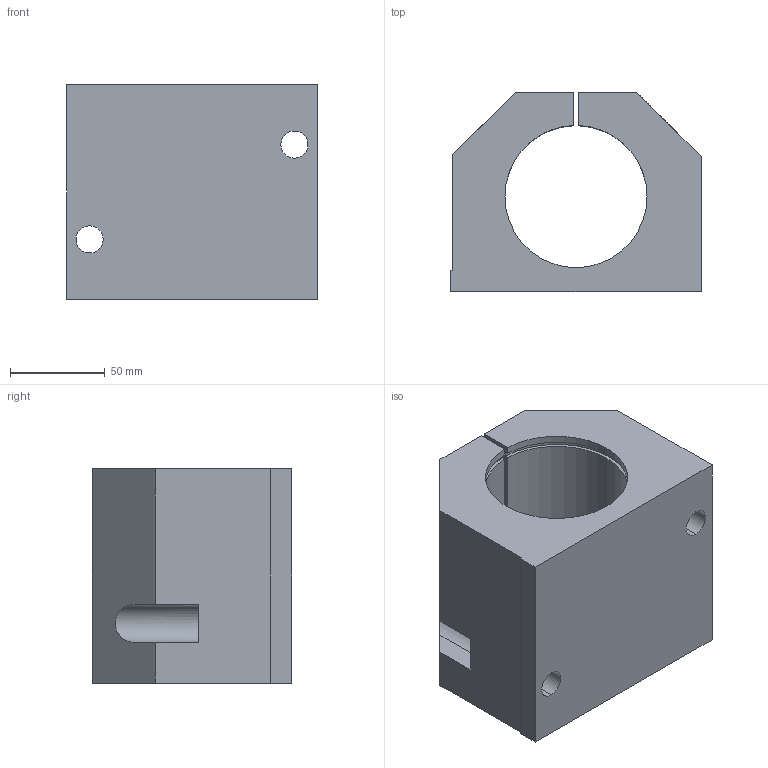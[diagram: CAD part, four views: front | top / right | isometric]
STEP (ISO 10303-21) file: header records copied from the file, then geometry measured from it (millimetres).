
FILE_DESCRIPTION (( 'STEP AP214' ), '1' );
FILE_NAME ('KGE36-50.step', '2020-03-04T13:20:29', ( '' ), ( '' ), 'SwSTEP 2.0', 'SolidWorks 2019', '' );
FILE_SCHEMA (( 'AUTOMOTIVE_DESIGN' ));
Length unit declared in the file: millimetre
Products named in the file (1): KGE36-50
Bounding box: 132 x 105 x 113 mm (x, y, z)
Volume: 872718.5 mm3; surface area: 106587.5 mm2
Topology: 1 solids, 1 shells, 59 faces, 162 edges, 105 vertices
Faces by surface type: cylinder 31, plane 24, cone 4
Entity records: 2064 total; most frequent: CARTESIAN_POINT 397, DIRECTION 330, ORIENTED_EDGE 320, EDGE_CURVE 160, AXIS2_PLACEMENT_3D 116, VERTEX_POINT 105, LINE 98, VECTOR 98
